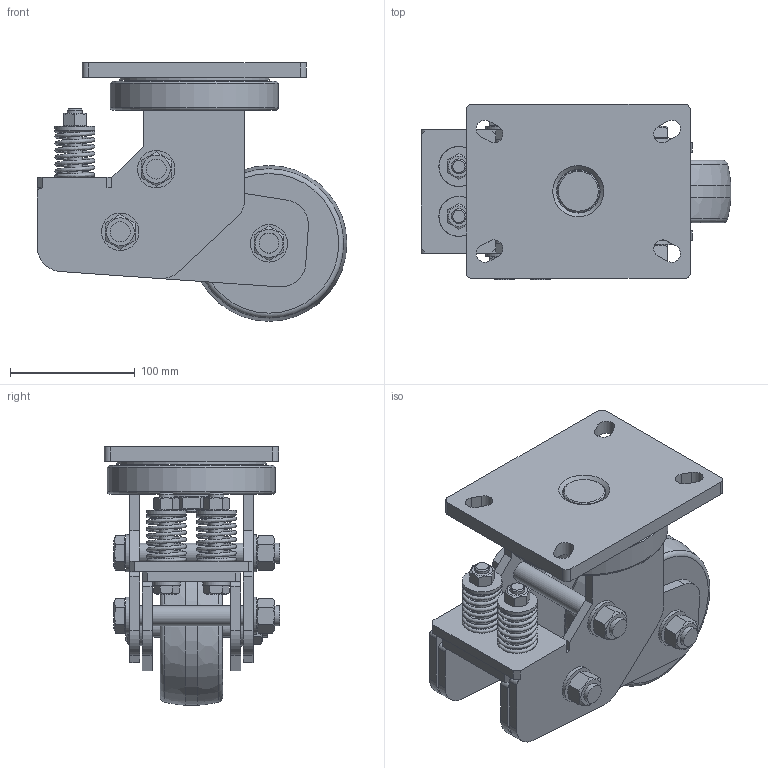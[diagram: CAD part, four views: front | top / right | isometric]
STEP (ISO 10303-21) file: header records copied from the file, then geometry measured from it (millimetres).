
FILE_DESCRIPTION(/* description */ (''),/* implementation_level */ '2;1');
FILE_NAME(/* name */ '45F01_5_F.stp',/* time_stamp */ '2022-10-07T11:25:55+08:00',/* author */ (''),/* organization */ (''),/* preprocessor_version */ 'ST-DEVELOPER v14',/* originating_system */ 'SIEMENS PLM Software NX 8.0',/* authorisation */ '');
FILE_SCHEMA (('AUTOMOTIVE_DESIGN { 1 0 10303 214 3 1 1 1 }'));
Length unit declared in the file: millimetre
Products named in the file (1): 45F01_5_F
Bounding box: 248.6 x 140.95 x 207.5 mm (x, y, z)
Volume: 1911872.5 mm3; surface area: 347596.2 mm2
Topology: 1 solids, 1 shells, 630 faces, 1590 edges, 1037 vertices
Faces by surface type: plane 417, cylinder 113, sphere 30, cone 29, bspline 26, torus 15
Full cylindrical faces by diameter (mm): 12 x4, 13 x4, 16 x6, 16.3 x6, 17 x8, 18 x1, 20 x1, 22 x2, 26 x1, 30 x6, 32 x2, 34 x1, 35 x1, 36 x1, 47 x1, 90 x1, 120 x1, 125 x1, 135 x1
Entity records: 24834 total; most frequent: CARTESIAN_POINT 10701, ORIENTED_EDGE 2852, DIRECTION 2680, EDGE_CURVE 1426, AXIS2_PLACEMENT_3D 1019, VERTEX_POINT 996, EDGE_LOOP 918, LINE 642
